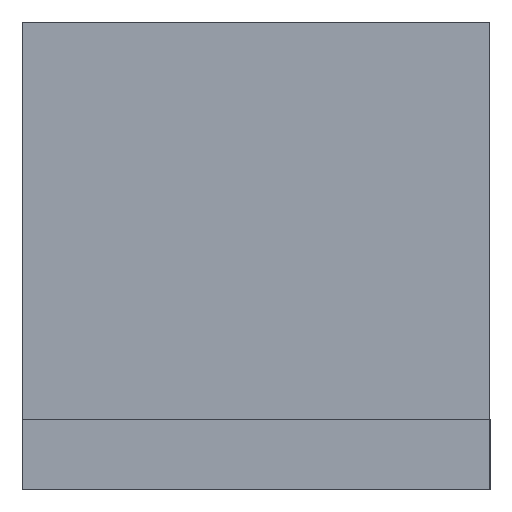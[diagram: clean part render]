
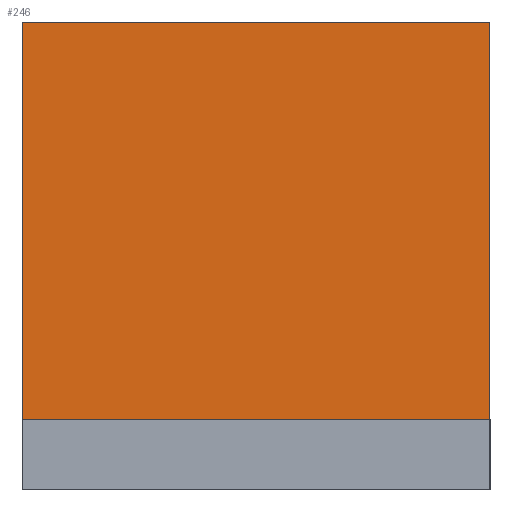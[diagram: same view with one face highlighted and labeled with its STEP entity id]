
A CAD part, left-side view. The second image highlights one B-rep face of the part: STEP entity #246.
In plain terms, the highlighted planar face has unit normal (-1, 0, 0).
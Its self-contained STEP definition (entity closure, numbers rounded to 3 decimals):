
#24 = VERTEX_POINT('',#25);
#25 = CARTESIAN_POINT('',(0.,0.,6.));
#32 = PLANE('',#33);
#33 = AXIS2_PLACEMENT_3D('',#34,#35,#36);
#34 = CARTESIAN_POINT('',(0.,0.,0.));
#35 = DIRECTION('',(1.,0.,-0.));
#36 = DIRECTION('',(0.,0.,1.));
#85 = VERTEX_POINT('',#86);
#86 = CARTESIAN_POINT('',(0.,40.,6.));
#112 = EDGE_CURVE('',#24,#85,#113,.T.);
#113 = SURFACE_CURVE('',#114,(#118,#125),.PCURVE_S1.);
#114 = LINE('',#115,#116);
#115 = CARTESIAN_POINT('',(0.,0.,6.));
#116 = VECTOR('',#117,1.);
#117 = DIRECTION('',(-0.,1.,0.));
#118 = PCURVE('',#32,#119);
#119 = DEFINITIONAL_REPRESENTATION('',(#120),#124);
#120 = LINE('',#121,#122);
#121 = CARTESIAN_POINT('',(6.,0.));
#122 = VECTOR('',#123,1.);
#123 = DIRECTION('',(0.,-1.));
#124 = ( GEOMETRIC_REPRESENTATION_CONTEXT(2) 
PARAMETRIC_REPRESENTATION_CONTEXT() REPRESENTATION_CONTEXT('2D SPACE',''
  ) );
#125 = PCURVE('',#126,#131);
#126 = PLANE('',#127);
#127 = AXIS2_PLACEMENT_3D('',#128,#129,#130);
#128 = CARTESIAN_POINT('',(0.,0.,6.));
#129 = DIRECTION('',(1.,0.,-0.));
#130 = DIRECTION('',(0.,0.,1.));
#131 = DEFINITIONAL_REPRESENTATION('',(#132),#136);
#132 = LINE('',#133,#134);
#133 = CARTESIAN_POINT('',(0.,0.));
#134 = VECTOR('',#135,1.);
#135 = DIRECTION('',(0.,-1.));
#136 = ( GEOMETRIC_REPRESENTATION_CONTEXT(2) 
PARAMETRIC_REPRESENTATION_CONTEXT() REPRESENTATION_CONTEXT('2D SPACE',''
  ) );
#181 = PLANE('',#182);
#182 = AXIS2_PLACEMENT_3D('',#183,#184,#185);
#183 = CARTESIAN_POINT('',(0.,0.,6.));
#184 = DIRECTION('',(-0.,1.,0.));
#185 = DIRECTION('',(0.,0.,1.));
#246 = ADVANCED_FACE('',(#247),#126,.F.);
#247 = FACE_BOUND('',#248,.F.);
#248 = EDGE_LOOP('',(#249,#272,#273,#301));
#249 = ORIENTED_EDGE('',*,*,#250,.F.);
#250 = EDGE_CURVE('',#24,#251,#253,.T.);
#251 = VERTEX_POINT('',#252);
#252 = CARTESIAN_POINT('',(0.,0.,40.));
#253 = SURFACE_CURVE('',#254,(#258,#265),.PCURVE_S1.);
#254 = LINE('',#255,#256);
#255 = CARTESIAN_POINT('',(0.,0.,6.));
#256 = VECTOR('',#257,1.);
#257 = DIRECTION('',(0.,0.,1.));
#258 = PCURVE('',#126,#259);
#259 = DEFINITIONAL_REPRESENTATION('',(#260),#264);
#260 = LINE('',#261,#262);
#261 = CARTESIAN_POINT('',(0.,0.));
#262 = VECTOR('',#263,1.);
#263 = DIRECTION('',(1.,0.));
#264 = ( GEOMETRIC_REPRESENTATION_CONTEXT(2) 
PARAMETRIC_REPRESENTATION_CONTEXT() REPRESENTATION_CONTEXT('2D SPACE',''
  ) );
#265 = PCURVE('',#181,#266);
#266 = DEFINITIONAL_REPRESENTATION('',(#267),#271);
#267 = LINE('',#268,#269);
#268 = CARTESIAN_POINT('',(0.,0.));
#269 = VECTOR('',#270,1.);
#270 = DIRECTION('',(1.,0.));
#271 = ( GEOMETRIC_REPRESENTATION_CONTEXT(2) 
PARAMETRIC_REPRESENTATION_CONTEXT() REPRESENTATION_CONTEXT('2D SPACE',''
  ) );
#272 = ORIENTED_EDGE('',*,*,#112,.T.);
#273 = ORIENTED_EDGE('',*,*,#274,.T.);
#274 = EDGE_CURVE('',#85,#275,#277,.T.);
#275 = VERTEX_POINT('',#276);
#276 = CARTESIAN_POINT('',(0.,40.,40.));
#277 = SURFACE_CURVE('',#278,(#282,#289),.PCURVE_S1.);
#278 = LINE('',#279,#280);
#279 = CARTESIAN_POINT('',(0.,40.,6.));
#280 = VECTOR('',#281,1.);
#281 = DIRECTION('',(0.,0.,1.));
#282 = PCURVE('',#126,#283);
#283 = DEFINITIONAL_REPRESENTATION('',(#284),#288);
#284 = LINE('',#285,#286);
#285 = CARTESIAN_POINT('',(0.,-40.));
#286 = VECTOR('',#287,1.);
#287 = DIRECTION('',(1.,0.));
#288 = ( GEOMETRIC_REPRESENTATION_CONTEXT(2) 
PARAMETRIC_REPRESENTATION_CONTEXT() REPRESENTATION_CONTEXT('2D SPACE',''
  ) );
#289 = PCURVE('',#290,#295);
#290 = PLANE('',#291);
#291 = AXIS2_PLACEMENT_3D('',#292,#293,#294);
#292 = CARTESIAN_POINT('',(0.,40.,6.));
#293 = DIRECTION('',(-0.,1.,0.));
#294 = DIRECTION('',(0.,0.,1.));
#295 = DEFINITIONAL_REPRESENTATION('',(#296),#300);
#296 = LINE('',#297,#298);
#297 = CARTESIAN_POINT('',(0.,0.));
#298 = VECTOR('',#299,1.);
#299 = DIRECTION('',(1.,0.));
#300 = ( GEOMETRIC_REPRESENTATION_CONTEXT(2) 
PARAMETRIC_REPRESENTATION_CONTEXT() REPRESENTATION_CONTEXT('2D SPACE',''
  ) );
#301 = ORIENTED_EDGE('',*,*,#302,.F.);
#302 = EDGE_CURVE('',#251,#275,#303,.T.);
#303 = SURFACE_CURVE('',#304,(#308,#315),.PCURVE_S1.);
#304 = LINE('',#305,#306);
#305 = CARTESIAN_POINT('',(0.,0.,40.));
#306 = VECTOR('',#307,1.);
#307 = DIRECTION('',(-0.,1.,0.));
#308 = PCURVE('',#126,#309);
#309 = DEFINITIONAL_REPRESENTATION('',(#310),#314);
#310 = LINE('',#311,#312);
#311 = CARTESIAN_POINT('',(34.,0.));
#312 = VECTOR('',#313,1.);
#313 = DIRECTION('',(0.,-1.));
#314 = ( GEOMETRIC_REPRESENTATION_CONTEXT(2) 
PARAMETRIC_REPRESENTATION_CONTEXT() REPRESENTATION_CONTEXT('2D SPACE',''
  ) );
#315 = PCURVE('',#316,#321);
#316 = PLANE('',#317);
#317 = AXIS2_PLACEMENT_3D('',#318,#319,#320);
#318 = CARTESIAN_POINT('',(0.,0.,40.));
#319 = DIRECTION('',(0.,0.,1.));
#320 = DIRECTION('',(1.,0.,-0.));
#321 = DEFINITIONAL_REPRESENTATION('',(#322),#326);
#322 = LINE('',#323,#324);
#323 = CARTESIAN_POINT('',(0.,0.));
#324 = VECTOR('',#325,1.);
#325 = DIRECTION('',(0.,1.));
#326 = ( GEOMETRIC_REPRESENTATION_CONTEXT(2) 
PARAMETRIC_REPRESENTATION_CONTEXT() REPRESENTATION_CONTEXT('2D SPACE',''
  ) );
